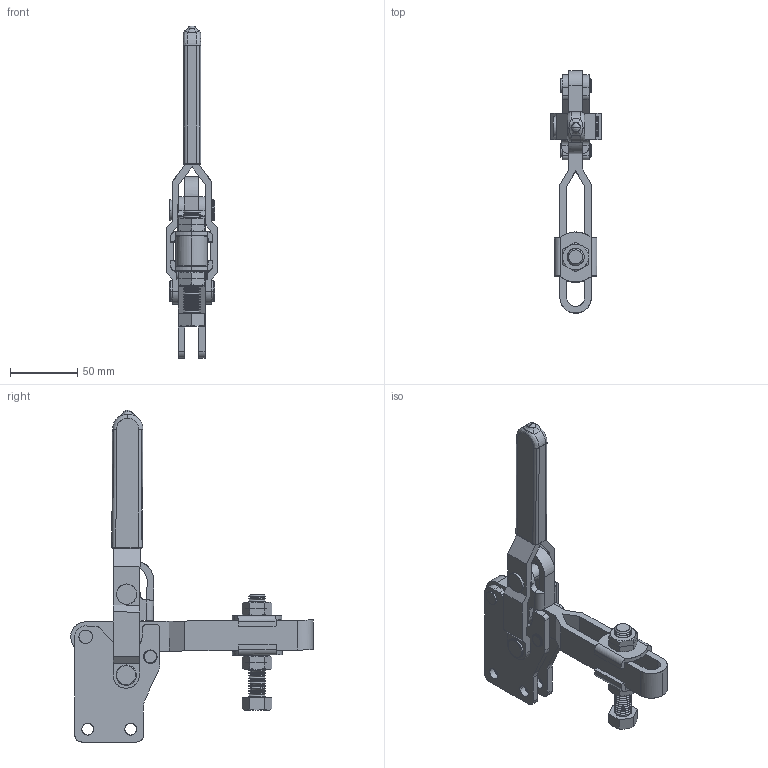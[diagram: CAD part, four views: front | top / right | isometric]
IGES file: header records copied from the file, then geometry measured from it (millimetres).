
Start section: 3D InterOp IGES (Version 17 0 1), Spatial Corp. Copyright (c) 1999-2007.
Bounding box: 37.5 x 179.75 x 246.04 mm (x, y, z)
Surface area: 93181.7 mm2 (no closed solid volume)
Topology: 0 solids, 0 shells, 629 faces, 4692 edges, 4690 vertices
Faces by surface type: bspline 629
